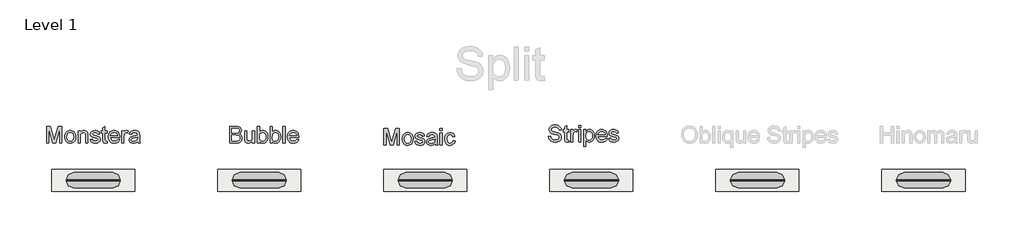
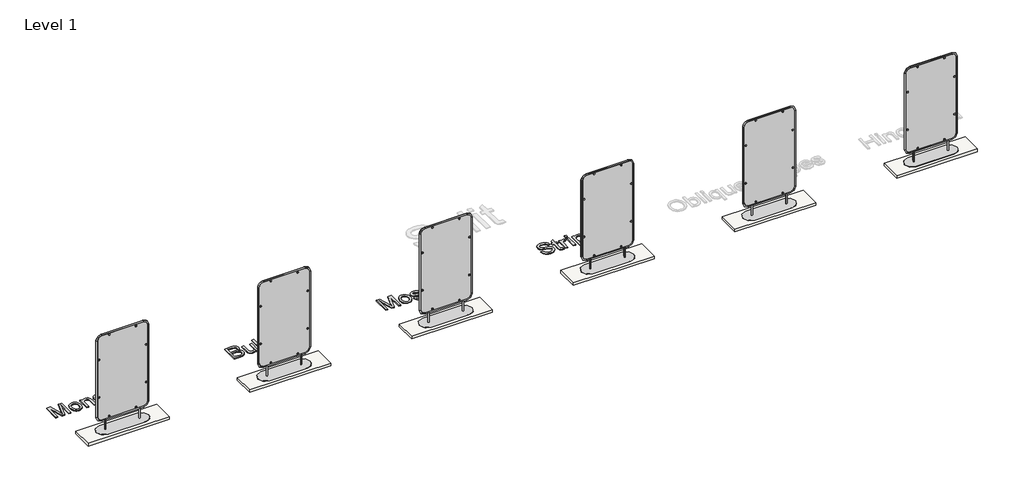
# One storey, part 1 of 2: 6 furniture elements, 6 slabs, 4 proxies.
"""IFC4 building model written with IfcOpenShell, lengths in millimetres."""

from ifc_helpers import new_model, si_unit, frame, origin, origin_with_axes, place, context, project, spatial, polyline, outline, extrude, transform, mapped, element, save
from components import split_e62d9c19

model = new_model("IFC4")

# Units and contexts
model_context = context("Model", 3, world=origin())
ifc_project = project(units=[si_unit("LENGTHUNIT", "METRE", prefix="MILLI")], contexts=[model_context])

# Site, building, storey
site = spatial("IfcSite", under=ifc_project)
building = spatial("IfcBuilding", under=site)
storey = spatial("IfcBuildingStorey", under=building, Name="Level 1", Elevation=0.0)

# Proxies
placement = place(None, origin())
element("IfcBuildingElementProxy", 1, Name="200mm Arial", ObjectType="200mm Arial", at=placement, inside=storey, context=model_context, shape_type="SweptSolid", body=[
    extrude(outline(polyline([(-7395.9629457, 15070.0026476), (-7395.9629457, 15371.3715781), (-7331.1421382, 15371.3715781), (-7269.4851158, 15158.956514), (-7257.0507043, 15114.5899454), (-7243.5862233, 15162.635334), (-7182.9592705, 15371.3715781), (-7118.138463, 15371.3715781), (-7118.138463, 15070.0026476), (-7155.8095793, 15070.0026476), (-7155.8095793, 15333.7004617), (-7231.5196939, 15070.0026476), (-7282.5817148, 15070.0026476), (-7358.2918294, 15333.7004617), (-7358.2918294, 15070.0026476), (-7395.9629457, 15070.0026476)])), origin_with_axes(), (0.0, 0.0, 1.0), 15.0),
    extrude(outline(polyline([(-7066.340678, 15180.6615518), (-7064.3035315, 15209.3241577), (-7058.1920918, 15234.0228352), (-7048.0063591, 15254.7575841), (-7033.7463333, 15271.5284046), (-7019.3897384, 15282.2475662), (-7003.5432215, 15289.9041102), (-6986.2067824, 15294.4980366), (-6967.3804213, 15296.0293454), (-6946.5973879, 15294.1646436), (-6927.8055157, 15288.570538), (-6911.0048048, 15279.2470287), (-6896.1952553, 15266.1941156), (-6884.1080325, 15249.8532573), (-6875.4743019, 15230.665912), (-6870.2940636, 15208.6320797), (-6868.5673174, 15183.7517605), (-6871.620738, 15145.6943681), (-6880.7809997, 15116.723661), (-6895.781388, 15095.0278203), (-6916.3551886, 15078.7950273), (-6940.7917501, 15068.6690754), (-6967.3804213, 15065.2937581), (-6988.4669575, 15067.1515621), (-7007.4335736, 15072.7249744), (-7024.2802697, 15082.0139947), (-7039.0070458, 15095.0186233), (-7050.9655099, 15111.5181308), (-7059.50727, 15131.291788), (-7064.632326, 15154.339595), (-7066.340678, 15180.6615518)]), holes=[polyline([(-7028.6695617, 15180.7351282), (-7024.3101601, 15146.6416643), (-7011.2319552, 15122.3522555), (-6991.5502684, 15107.8117197), (-6967.3804213, 15102.9648744), (-6943.3209389, 15107.8393108), (-6923.6760403, 15122.4626201), (-6910.5978354, 15147.0739256), (-6906.2384337, 15181.9123505), (-6910.6254265, 15215.0125331), (-6923.7864049, 15238.970848), (-6943.4588946, 15253.5113839), (-6967.3804213, 15258.3582291), (-6991.5502684, 15253.529778), (-7011.2319552, 15239.0444244), (-7024.3101601, 15214.810198), (-7028.6695617, 15180.7351282)])]), origin_with_axes(), (0.0, 0.0, 1.0), 15.0),
    extrude(outline(polyline([(-6826.1873116, 15070.0026476), (-6826.1873116, 15291.3204559), (-6788.5161953, 15291.3204559), (-6788.5161953, 15260.4183683), (-6775.4287933, 15275.9981708), (-6759.7110351, 15287.1266012), (-6741.3629206, 15293.8036594), (-6720.3844498, 15296.0293454), (-6701.8156061, 15294.2359207), (-6684.8102608, 15288.8556465), (-6670.6284099, 15280.5599075), (-6660.5300492, 15270.0200884), (-6649.2360719, 15242.3185741), (-6647.2495091, 15205.8982566), (-6647.2495091, 15070.0026476), (-6684.9206254, 15070.0026476), (-6684.9206254, 15200.8214851), (-6689.261633, 15234.1515939), (-6695.2673066, 15244.0752107), (-6704.6023122, 15251.7731414), (-6716.5676741, 15256.7119572), (-6730.4644164, 15258.3582291), (-6752.5281391, 15254.6610151), (-6771.3361061, 15243.5693729), (-6778.8523951, 15234.5148773), (-6784.221173, 15222.1402467), (-6788.5161953, 15187.4305805), (-6788.5161953, 15070.0026476), (-6826.1873116, 15070.0026476)])), origin_with_axes(), (0.0, 0.0, 1.0), 15.0),
    extrude(outline(polyline([(-6609.5783928, 15135.9271011), (-6571.9072765, 15140.6359907), (-6565.9659823, 15124.5227593), (-6554.46967, 15112.676959), (-6537.3447631, 15105.3928955), (-6514.5176853, 15102.9648744), (-6491.966519, 15105.1905604), (-6476.110805, 15111.8676187), (-6466.7298141, 15121.5429151), (-6463.6028171, 15132.763316), (-6466.7482082, 15142.3650361), (-6476.1843814, 15149.6858878), (-6514.9591437, 15160.428042), (-6571.6865473, 15178.85893), (-6586.0431422, 15188.1203592), (-6596.4450056, 15200.3800267), (-6602.7633789, 15214.8561832), (-6604.8695033, 15230.7670795), (-6603.1772461, 15245.3627977), (-6598.1004746, 15258.8364757), (-6590.0990412, 15270.6546848), (-6579.6327984, 15280.283996), (-6555.6836805, 15291.4308205), (-6523.2732768, 15296.0293454), (-6498.7539418, 15294.1807384), (-6477.4351802, 15288.6349173), (-6460.2918792, 15279.9345082), (-6448.2989261, 15268.6221368), (-6440.352675, 15253.8608717), (-6435.3494799, 15234.8137814), (-6473.0205962, 15230.1048919), (-6477.775471, 15241.9598892), (-6487.184053, 15250.8902246), (-6501.3383128, 15256.491228), (-6520.3302208, 15258.3582291), (-6541.9616821, 15256.5740015), (-6556.3826563, 15251.2213184), (-6564.4944543, 15243.4957965), (-6567.198387, 15234.5930522), (-6562.7102266, 15223.6301688), (-6548.6571344, 15215.3160357), (-6516.2099425, 15207.2962082), (-6460.9172786, 15189.564296), (-6446.3123634, 15181.0846161), (-6435.2391153, 15169.4779391), (-6428.2585545, 15154.707477), (-6425.9317008, 15136.7364415), (-6428.6632247, 15118.1584008), (-6436.8577961, 15100.684006), (-6450.2027155, 15085.6836177), (-6468.3852831, 15074.5275961), (-6490.3478382, 15067.6022176), (-6515.0327201, 15065.2937581), (-6553.0165361, 15069.7451302), (-6580.7364444, 15083.0992466), (-6599.2409088, 15105.2089545), (-6609.5783928, 15135.9271011)])), origin_with_axes(), (0.0, 0.0, 1.0), 15.0),
    extrude(outline(polyline([(-6303.5005728, 15101.41977), (-6298.7916833, 15068.8990016), (-6326.9714441, 15065.2937581), (-6345.0528442, 15066.8572565), (-6358.5357193, 15071.547752), (-6368.063863, 15078.7766332), (-6374.2810687, 15087.955289), (-6377.7023713, 15103.7190325), (-6378.8428055, 15130.7031768), (-6378.8428055, 15253.6493396), (-6407.0961427, 15253.6493396), (-6407.0961427, 15291.3204559), (-6378.8428055, 15291.3204559), (-6378.8428055, 15345.1048036), (-6341.1716891, 15367.2512997), (-6341.1716891, 15291.3204559), (-6303.5005728, 15291.3204559), (-6303.5005728, 15253.6493396), (-6341.1716891, 15253.6493396), (-6341.1716891, 15131.8068228), (-6339.1851264, 15112.3826535), (-6332.7471915, 15105.5032601), (-6319.9081098, 15102.9648744), (-6303.5005728, 15101.41977)])), origin_with_axes(), (0.0, 0.0, 1.0), 15.0),
    extrude(outline(polyline([(-6110.8775602, 15135.9271011), (-6073.9422079, 15131.2182116), (-6087.250339, 15103.3879387), (-6108.4863272, 15082.5842118), (-6137.1719258, 15069.6163715), (-6172.8288882, 15065.2937581), (-6196.2031904, 15067.1584599), (-6217.0299099, 15072.7525655), (-6235.3090465, 15082.0760748), (-6251.0406003, 15095.1289879), (-6263.6911424, 15111.5480212), (-6272.7272439, 15130.9698913), (-6278.1489049, 15153.3945981), (-6279.9561252, 15178.8221418), (-6278.1305108, 15205.1119089), (-6272.6536675, 15228.283876), (-6263.5255955, 15248.3380433), (-6250.7462947, 15265.2744106), (-6235.0561276, 15278.7296946), (-6217.1954568, 15288.3406117), (-6197.1642821, 15294.107162), (-6174.9626037, 15296.0293454), (-6153.4759959, 15294.1117605), (-6134.0449288, 15288.3590058), (-6116.6694023, 15278.7710813), (-6101.3494165, 15265.347987), (-6088.8437279, 15248.4484079), (-6079.9110932, 15228.4310288), (-6074.5515124, 15205.2958499), (-6072.7649855, 15179.042871), (-6072.9857147, 15168.8893279), (-6242.2850088, 15168.8893279), (-6235.7643005, 15140.691173), (-6220.6167593, 15119.9610226), (-6198.7553718, 15107.2139114), (-6172.0931242, 15102.9648744), (-6152.0435554, 15104.933043), (-6135.1577719, 15110.8375491), (-6121.4357734, 15121.0462744), (-6110.8775602, 15135.9271011)]), holes=[polyline([(-6242.2850088, 15206.5604442), (-6110.4361018, 15206.5604442), (-6115.5312674, 15226.4628602), (-6125.5192636, 15240.6998934), (-6147.4818187, 15253.9436452), (-6175.1097565, 15258.3582291), (-6200.5028112, 15254.835759), (-6221.4996761, 15244.2683487), (-6236.0953943, 15227.7964324), (-6242.2850088, 15206.5604442)])]), origin_with_axes(), (0.0, 0.0, 1.0), 15.0),
    extrude(outline(polyline([(-6035.0938692, 15070.0026476), (-6035.0938692, 15291.3204559), (-6002.1316424, 15291.3204559), (-6002.1316424, 15258.5789583), (-5989.9547484, 15277.5616693), (-5978.7343475, 15288.7452819), (-5967.4771584, 15294.2083296), (-5955.1898998, 15296.0293454), (-5936.4279181, 15293.1230777), (-5917.3716307, 15284.4042744), (-5929.9531949, 15250.6327072), (-5943.1969468, 15256.4268487), (-5956.4406986, 15258.3582291), (-5967.6886906, 15256.5004251), (-5977.7410661, 15250.9270128), (-5985.8620612, 15242.0610568), (-5991.3159117, 15230.3256211), (-5995.8960426, 15209.282771), (-5997.4227529, 15186.3269345), (-5997.4227529, 15070.0026476), (-6035.0938692, 15070.0026476)])), origin_with_axes(), (0.0, 0.0, 1.0), 15.0),
    extrude(outline(polyline([(-5752.5604969, 15098.2559848), (-5770.5591235, 15082.8233351), (-5789.091179, 15072.7249744), (-5808.5797277, 15067.1515621), (-5829.4478339, 15065.2937581), (-5860.9293356, 15069.7635243), (-5884.1518865, 15083.172823), (-5898.4716932, 15103.5350915), (-5903.2449621, 15128.8637668), (-5901.4423403, 15144.4803575), (-5896.034475, 15158.6622084), (-5887.6927507, 15170.8023143), (-5877.0885522, 15180.2936698), (-5850.7114132, 15192.6545048), (-5818.1170684, 15198.3198875), (-5779.5998235, 15204.2795758), (-5752.7812261, 15211.2693338), (-5752.5604969, 15219.6570432), (-5755.1540649, 15236.4692504), (-5762.9347691, 15247.4689221), (-5780.3355875, 15255.6359024), (-5804.579011, 15258.3582291), (-5827.0198127, 15256.5464103), (-5842.6915857, 15251.1109538), (-5853.3785576, 15241.0585783), (-5860.8649562, 15225.3960024), (-5898.5360726, 15230.1048919), (-5891.9969701, 15250.7062836), (-5882.2389002, 15266.8930914), (-5868.3513548, 15279.2723206), (-5849.4238262, 15288.4509763), (-5826.2748517, 15294.1347532), (-5799.7229686, 15296.0293454), (-5774.2563375, 15294.3554824), (-5754.068813, 15289.3338931), (-5738.8476955, 15281.7831152), (-5728.2802852, 15272.521686), (-5721.2721332, 15261.0713589), (-5716.7287905, 15246.9538873), (-5714.8893806, 15213.9916605), (-5714.8893806, 15167.1234943), (-5712.9763942, 15101.6772874), (-5705.4716015, 15070.0026476), (-5743.1427178, 15070.0026476), (-5752.5604969, 15098.2559848)]), holes=[polyline([(-5752.5604969, 15173.5982174), (-5813.3346025, 15162.0467228), (-5845.7450062, 15155.9398817), (-5860.4234979, 15146.0070678), (-5865.5738458, 15131.5125172), (-5862.7687456, 15120.3105104), (-5854.3534449, 15111.1318547), (-5840.5118849, 15105.0066194), (-5821.4280064, 15102.9648744), (-5801.1944966, 15105.2181516), (-5783.3154317, 15111.9779833), (-5768.8208811, 15121.9383883), (-5758.7409144, 15133.7933856), (-5754.2711481, 15146.0070678), (-5752.7812261, 15162.9296396), (-5752.5604969, 15173.5982174)])]), origin_with_axes(), (0.0, 0.0, 1.0), 15.0),
])
element("IfcBuildingElementProxy", 2, Name="200mm Arial", ObjectType="200mm Arial", at=placement, inside=storey, context=model_context, shape_type="SweptSolid", body=[
    extrude(outline(polyline([(-4089.5515645, 15070.0026476), (-4089.5515645, 15371.3715781), (-3974.5516528, 15371.3715781), (-3942.9229982, 15369.155089), (-3918.2289193, 15362.505622), (-3899.3013907, 15351.25763), (-3884.972387, 15335.2455661), (-3875.950081, 15316.410008), (-3872.9426457, 15296.691533), (-3875.4718344, 15278.5457536), (-3883.0594006, 15261.4852261), (-3895.7605265, 15246.5584141), (-3913.6303944, 15234.8137814), (-3892.2840416, 15223.666957), (-3876.5111011, 15206.707597), (-3866.7714252, 15185.0577416), (-3863.5248666, 15159.8394308), (-3865.7413557, 15138.8241719), (-3872.3908227, 15119.3356232), (-3882.3144395, 15102.7625393), (-3894.3533778, 15090.4936747), (-3909.0962488, 15081.6093246), (-3927.1316636, 15075.1897837), (-3975.4345696, 15070.0026476), (-4089.5515645, 15070.0026476)]), holes=[polyline([(-4051.8804482, 15248.9404501), (-3983.0865151, 15248.9404501), (-3942.9138012, 15252.1778116), (-3928.8515119, 15257.7604209), (-3918.7439541, 15266.1205392), (-3912.64631, 15277.1294079), (-3910.613762, 15290.6582683), (-3912.5083543, 15303.7916555), (-3918.1921311, 15315.2327856), (-3927.4075751, 15324.163121), (-3939.8971688, 15329.7641244), (-3988.3104394, 15333.7004617), (-4051.8804482, 15333.7004617), (-4051.8804482, 15248.9404501)]), polyline([(-4051.8804482, 15107.6737639), (-3974.6252292, 15107.6737639), (-3946.6661975, 15109.1452919), (-3923.0113853, 15117.3490604), (-3907.3396123, 15134.0876912), (-3902.7318903, 15145.9150973), (-3901.1959829, 15159.4715488), (-3902.9986047, 15175.2168982), (-3908.40647, 15188.7549556), (-3917.8518403, 15199.3407601), (-3931.7669767, 15206.2293504), (-3951.4762546, 15210.0093379), (-3978.3040491, 15211.2693338), (-4051.8804482, 15211.2693338), (-4051.8804482, 15107.6737639)])]), origin_with_axes(), (0.0, 0.0, 1.0), 15.0),
    extrude(outline(polyline([(-3675.1692851, 15070.0026476), (-3675.1692851, 15108.0416459), (-3688.799313, 15089.339445), (-3704.6734211, 15075.98073), (-3722.7916094, 15067.9655011), (-3743.1538778, 15065.2937581), (-3761.5019923, 15067.1699562), (-3778.580914, 15072.7985508), (-3792.9099177, 15081.2598367), (-3803.0082784, 15091.6341089), (-3814.2286793, 15119.3724114), (-3816.4359713, 15154.3947773), (-3816.4359713, 15291.3204559), (-3778.7648549, 15291.3204559), (-3778.7648549, 15172.1266895), (-3776.4839866, 15133.7198092), (-3770.9933478, 15120.9083187), (-3761.5847658, 15111.1686429), (-3748.8836399, 15105.0158165), (-3733.5153695, 15102.9648744), (-3717.2641824, 15105.0618017), (-3702.061459, 15111.3525839), (-3689.52588, 15121.2578066), (-3681.2761262, 15134.1980558), (-3676.6959954, 15151.9207709), (-3675.1692851, 15176.1733914), (-3675.1692851, 15291.3204559), (-3637.4981688, 15291.3204559), (-3637.4981688, 15070.0026476), (-3675.1692851, 15070.0026476)])), origin_with_axes(), (0.0, 0.0, 1.0), 15.0),
    extrude(outline(polyline([(-3548.0292676, 15070.0026476), (-3585.7003839, 15070.0026476), (-3585.7003839, 15371.3715781), (-3548.0292676, 15371.3715781), (-3548.0292676, 15259.6090279), (-3535.6408414, 15275.5429168), (-3521.6521285, 15286.9242661), (-3506.063129, 15293.7530756), (-3488.8738427, 15296.0293454), (-3469.4680675, 15293.9784033), (-3451.12915, 15287.825577), (-3434.9055541, 15277.9571424), (-3421.8457432, 15264.7593759), (-3411.6094267, 15248.3610359), (-3403.8563137, 15228.8908813), (-3398.9726802, 15207.1582525), (-3397.3448023, 15183.9724897), (-3399.0301617, 15157.2182716), (-3404.0862399, 15133.683021), (-3412.5130369, 15113.3667378), (-3424.3105526, 15096.2694221), (-3438.4717101, 15082.7175691), (-3453.9894326, 15073.0376741), (-3470.8637198, 15067.2297371), (-3489.0945719, 15065.2937581), (-3506.8494767, 15067.7907571), (-3522.5902276, 15075.2817542), (-3536.3168246, 15087.7667494), (-3548.0292676, 15105.2457427), (-3548.0292676, 15070.0026476)]), holes=[polyline([(-3548.0292676, 15182.2066561), (-3545.4540936, 15150.7895337), (-3537.7285717, 15129.5259544), (-3528.6004997, 15117.9054819), (-3517.9917027, 15109.6051444), (-3505.9021806, 15104.6249419), (-3492.3319335, 15102.9648744), (-3470.5901076, 15107.8577049), (-3452.0120668, 15122.5361965), (-3439.2649557, 15146.9083787), (-3435.0159187, 15180.882281), (-3439.0902118, 15215.3528239), (-3451.313091, 15239.4490946), (-3469.3117177, 15253.6309455), (-3490.7132527, 15258.3582291), (-3512.4550786, 15253.4653986), (-3531.0331194, 15238.786907), (-3543.7802305, 15214.8561832), (-3548.0292676, 15182.2066561)])]), origin_with_axes(), (0.0, 0.0, 1.0), 15.0),
    extrude(outline(polyline([(-3317.2936802, 15070.0026476), (-3354.9647965, 15070.0026476), (-3354.9647965, 15371.3715781), (-3317.2936802, 15371.3715781), (-3317.2936802, 15259.6090279), (-3304.905254, 15275.5429168), (-3290.9165411, 15286.9242661), (-3275.3275416, 15293.7530756), (-3258.1382554, 15296.0293454), (-3238.7324801, 15293.9784033), (-3220.3935627, 15287.825577), (-3204.1699667, 15277.9571424), (-3191.1101559, 15264.7593759), (-3180.8738393, 15248.3610359), (-3173.1207263, 15228.8908813), (-3168.2370928, 15207.1582525), (-3166.609215, 15183.9724897), (-3168.2945744, 15157.2182716), (-3173.3506525, 15133.683021), (-3181.7774495, 15113.3667378), (-3193.5749652, 15096.2694221), (-3207.7361228, 15082.7175691), (-3223.2538452, 15073.0376741), (-3240.1281324, 15067.2297371), (-3258.3589846, 15065.2937581), (-3276.1138894, 15067.7907571), (-3291.8546402, 15075.2817542), (-3305.5812372, 15087.7667494), (-3317.2936802, 15105.2457427), (-3317.2936802, 15070.0026476)]), holes=[polyline([(-3317.2936802, 15182.2066561), (-3314.7185062, 15150.7895337), (-3306.9929843, 15129.5259544), (-3297.8649123, 15117.9054819), (-3287.2561153, 15109.6051444), (-3275.1665932, 15104.6249419), (-3261.5963461, 15102.9648744), (-3239.8545202, 15107.8577049), (-3221.2764795, 15122.5361965), (-3208.5293683, 15146.9083787), (-3204.2803313, 15180.882281), (-3208.3546244, 15215.3528239), (-3220.5775037, 15239.4490946), (-3238.5761303, 15253.6309455), (-3259.9776653, 15258.3582291), (-3281.7194913, 15253.4653986), (-3300.297532, 15238.786907), (-3313.0446432, 15214.8561832), (-3317.2936802, 15182.2066561)])]), origin_with_axes(), (0.0, 0.0, 1.0), 15.0),
    extrude(outline(polyline([(-3124.2292091, 15070.0026476), (-3124.2292091, 15371.3715781), (-3086.5580928, 15371.3715781), (-3086.5580928, 15070.0026476), (-3124.2292091, 15070.0026476)])), origin_with_axes(), (0.0, 0.0, 1.0), 15.0),
    extrude(outline(polyline([(-2875.099522, 15135.9271011), (-2838.1641697, 15131.2182116), (-2851.4723009, 15103.3879387), (-2872.708289, 15082.5842118), (-2901.3938876, 15069.6163715), (-2937.05085, 15065.2937581), (-2960.4251523, 15067.1584599), (-2981.2518717, 15072.7525655), (-2999.5310083, 15082.0760748), (-3015.2625622, 15095.1289879), (-3027.9131043, 15111.5480212), (-3036.9492058, 15130.9698913), (-3042.3708667, 15153.3945981), (-3044.178087, 15178.8221418), (-3042.3524726, 15205.1119089), (-3036.8756294, 15228.283876), (-3027.7475574, 15248.3380433), (-3014.9682566, 15265.2744106), (-2999.2780895, 15278.7296946), (-2981.4174186, 15288.3406117), (-2961.386244, 15294.107162), (-2939.1845656, 15296.0293454), (-2917.6979578, 15294.1117605), (-2898.2668906, 15288.3590058), (-2880.8913642, 15278.7710813), (-2865.5713783, 15265.347987), (-2853.0656897, 15248.4484079), (-2844.1330551, 15228.4310288), (-2838.7734742, 15205.2958499), (-2836.9869473, 15179.042871), (-2837.2076765, 15168.8893279), (-3006.5069707, 15168.8893279), (-2999.9862623, 15140.691173), (-2984.8387212, 15119.9610226), (-2962.9773336, 15107.2139114), (-2936.315086, 15102.9648744), (-2916.2655173, 15104.933043), (-2899.3797337, 15110.8375491), (-2885.6577353, 15121.0462744), (-2875.099522, 15135.9271011)]), holes=[polyline([(-3006.5069707, 15206.5604442), (-2874.6580636, 15206.5604442), (-2879.7532292, 15226.4628602), (-2889.7412254, 15240.6998934), (-2911.7037805, 15253.9436452), (-2939.3317184, 15258.3582291), (-2964.7247731, 15254.835759), (-2985.7216379, 15244.2683487), (-3000.3173561, 15227.7964324), (-3006.5069707, 15206.5604442)])]), origin_with_axes(), (0.0, 0.0, 1.0), 15.0),
])
element("IfcBuildingElementProxy", 3, Name="200mm Arial", ObjectType="200mm Arial", at=placement, inside=storey, context=model_context, shape_type="SweptSolid", body=[
    extrude(outline(polyline([(1671.9035596, 15192.5248746), (1709.5746759, 15192.5248746), (1713.8972894, 15171.6199803), (1721.7147818, 15154.8169701), (1733.9100699, 15141.4812478), (1751.3660706, 15130.9782168), (1772.7032263, 15124.1632029), (1796.5419796, 15121.8915316), (1817.5296474, 15123.6113799), (1835.9053531, 15128.7709249), (1850.7953768, 15136.9379052), (1861.3259989, 15147.6800594), (1867.5891899, 15160.0133033), (1869.6769202, 15172.9535525), (1868.1134217, 15185.5627079), (1863.4229263, 15196.461212), (1853.8947826, 15205.7594294), (1837.8183394, 15213.5677248), (1782.967134, 15227.9519108), (1746.9606837, 15237.4708574), (1723.9220737, 15246.5299515), (1705.169289, 15259.2034863), (1691.879552, 15274.5625596), (1683.960892, 15292.2760776), (1681.3213387, 15312.0129467), (1684.5862914, 15334.0766693), (1694.3811495, 15354.6504699), (1710.4483957, 15372.0880765), (1732.5305124, 15384.7432171), (1759.0364102, 15392.4411479), (1788.3749993, 15395.0071248), (1820.1600037, 15392.3215862), (1847.9718825, 15384.2649705), (1870.8173544, 15371.0028246), (1887.703138, 15352.7006953), (1898.39011, 15330.4990169), (1902.639147, 15305.5382236), (1864.9680307, 15305.5382236), (1858.0518492, 15328.0158135), (1843.630875, 15344.2394094), (1821.0981028, 15354.0618587), (1789.8465273, 15357.3360085), (1757.8591878, 15354.0986469), (1735.9150268, 15344.3865622), (1723.2230979, 15330.0943467), (1718.992455, 15313.1165927), (1721.9906933, 15298.6404361), (1730.985408, 15286.996971), (1752.2489874, 15276.5859105), (1792.4952776, 15265.9541209), (1834.0291549, 15255.8557601), (1859.1554952, 15247.0449863), (1880.6306066, 15233.3781702), (1895.6126009, 15216.5107807), (1904.4141776, 15196.6267589), (1907.3480365, 15173.9100457), (1903.9727192, 15150.6874947), (1893.8467673, 15128.8445013), (1877.384048, 15110.0457313), (1854.9984286, 15095.9558509), (1828.0786636, 15087.1542742), (1798.0135076, 15084.2204153), (1761.1057464, 15087.3842004), (1730.7278907, 15096.8755559), (1706.5304524, 15112.7312699), (1688.1639438, 15134.9881306), (1676.3733259, 15162.1010336), (1671.9035596, 15192.5248746)])), origin_with_axes(), (0.0, 0.0, 1.0), 15.0),
    extrude(outline(polyline([(2039.1969436, 15120.3464272), (2043.9058331, 15087.8256588), (2015.7260723, 15084.2204153), (1997.6446723, 15085.7839137), (1984.1617971, 15090.4744092), (1974.6336535, 15097.7032904), (1968.4164477, 15106.8819462), (1964.9951452, 15122.6456897), (1963.854711, 15149.629834), (1963.854711, 15272.5759968), (1935.6013738, 15272.5759968), (1935.6013738, 15310.2471131), (1963.854711, 15310.2471131), (1963.854711, 15364.0314608), (2001.5258273, 15386.1779569), (2001.5258273, 15310.2471131), (2039.1969436, 15310.2471131), (2039.1969436, 15272.5759968), (2001.5258273, 15272.5759968), (2001.5258273, 15150.73348), (2003.5123901, 15131.3093106), (2009.950325, 15124.4299173), (2022.7894066, 15121.8915316), (2039.1969436, 15120.3464272)])), origin_with_axes(), (0.0, 0.0, 1.0), 15.0),
    extrude(outline(polyline([(2076.8680599, 15088.9293048), (2076.8680599, 15310.2471131), (2109.8302867, 15310.2471131), (2109.8302867, 15277.5056155), (2122.0071807, 15296.4883265), (2133.2275816, 15307.6719391), (2144.4847706, 15313.1349868), (2156.7720293, 15314.9560026), (2175.534011, 15312.0497349), (2194.5902984, 15303.3309316), (2182.0087341, 15269.5593644), (2168.7649823, 15275.3535058), (2155.5212305, 15277.2848863), (2144.2732385, 15275.4270822), (2134.220863, 15269.85367), (2126.0998679, 15260.9877139), (2120.6460173, 15249.2522783), (2116.0658865, 15228.2094282), (2114.5391762, 15205.2535917), (2114.5391762, 15088.9293048), (2076.8680599, 15088.9293048)])), origin_with_axes(), (0.0, 0.0, 1.0), 15.0),
    extrude(outline(polyline([(2218.1347461, 15352.6271189), (2218.1347461, 15390.2982352), (2255.8058624, 15390.2982352), (2255.8058624, 15352.6271189), (2218.1347461, 15352.6271189)])), origin_with_axes(), (0.0, 0.0, 1.0), 15.0),
    extrude(outline(polyline([(2218.1347461, 15088.9293048), (2218.1347461, 15310.2471131), (2255.8058624, 15310.2471131), (2255.8058624, 15088.9293048), (2218.1347461, 15088.9293048)])), origin_with_axes(), (0.0, 0.0, 1.0), 15.0),
    extrude(outline(polyline([(2312.3125368, 15004.1692931), (2312.3125368, 15310.2471131), (2349.9836531, 15310.2471131), (2349.9836531, 15273.3117608), (2362.2709118, 15291.5311166), (2376.0296984, 15304.5449422), (2392.0693534, 15312.3532375), (2411.1992171, 15314.9560026), (2436.6750453, 15311.3139709), (2458.9503001, 15300.3878756), (2477.0868825, 15282.8399045), (2490.1466933, 15259.332245), (2498.0377621, 15231.5755484), (2500.6681184, 15201.2804661), (2497.6974712, 15169.0632004), (2488.7855299, 15140.2488431), (2474.2174029, 15116.2997252), (2454.2781988, 15098.6781777), (2431.0556478, 15087.8348559), (2406.6374804, 15084.2204153), (2389.3194355, 15086.6392394), (2373.8591946, 15093.8957117), (2360.6246398, 15104.8493981), (2349.9836531, 15118.3598644), (2349.9836531, 15004.1692931), (2312.3125368, 15004.1692931)]), holes=[polyline([(2349.9836531, 15197.8223754), (2354.0579462, 15164.0508082), (2366.2808255, 15140.4327841), (2384.3162403, 15126.5268447), (2405.82814, 15121.8915316), (2427.6895276, 15126.6923916), (2446.1847949, 15141.0949717), (2458.7939503, 15165.5775185), (2462.9970021, 15200.6182785), (2458.8951178, 15234.2059047), (2446.5894651, 15258.1550226), (2428.5816414, 15272.5024204), (2407.3732444, 15277.2848863), (2386.0820739, 15272.1989177), (2367.3844715, 15256.941012), (2354.3338577, 15231.9894157), (2349.9836531, 15197.8223754)])]), origin_with_axes(), (0.0, 0.0, 1.0), 15.0),
    extrude(outline(polyline([(2698.0000206, 15154.8537583), (2734.9353729, 15150.1448688), (2721.6272417, 15122.3145959), (2700.3912535, 15101.510869), (2671.705655, 15088.5430287), (2636.0486926, 15084.2204153), (2612.6743903, 15086.0851171), (2591.8476709, 15091.6792227), (2573.5685342, 15101.002732), (2557.8369804, 15114.0556451), (2545.1864383, 15130.4746784), (2536.1503368, 15149.8965484), (2530.7286759, 15172.3212553), (2528.9214556, 15197.748799), (2530.74707, 15224.038566), (2536.2239132, 15247.2105332), (2545.3519852, 15267.2647005), (2558.131286, 15284.2010678), (2573.8214531, 15297.6563518), (2591.682124, 15307.2672689), (2611.7132986, 15313.0338192), (2633.914977, 15314.9560026), (2655.4015848, 15313.0384177), (2674.8326519, 15307.285663), (2692.2081784, 15297.6977385), (2707.5281642, 15284.2746442), (2720.0338528, 15267.3750651), (2728.9664875, 15247.357686), (2734.3260683, 15224.222507), (2736.1125953, 15197.9695282), (2735.8918661, 15187.8159851), (2566.5925719, 15187.8159851), (2573.1132803, 15159.6178302), (2588.2608214, 15138.8876797), (2610.122209, 15126.1405686), (2636.7844566, 15121.8915316), (2656.8340253, 15123.8597002), (2673.7198089, 15129.7642063), (2687.4418073, 15139.9729316), (2698.0000206, 15154.8537583)]), holes=[polyline([(2566.5925719, 15225.4871014), (2698.441479, 15225.4871014), (2693.3463133, 15245.3895173), (2683.3583172, 15259.6265506), (2661.395762, 15272.8703024), (2633.7678242, 15277.2848863), (2608.3747695, 15273.7624162), (2587.3779046, 15263.1950059), (2572.7821865, 15246.7230896), (2566.5925719, 15225.4871014)])]), origin_with_axes(), (0.0, 0.0, 1.0), 15.0),
    extrude(outline(polyline([(2759.657043, 15154.8537583), (2797.3281593, 15159.5626479), (2803.2694535, 15143.4494165), (2814.7657658, 15131.6036162), (2831.8906727, 15124.3195527), (2854.7177505, 15121.8915316), (2877.2689168, 15124.1172176), (2893.1246308, 15130.7942758), (2902.5056217, 15140.4695723), (2905.6326186, 15151.6899732), (2902.4872276, 15161.2916932), (2893.0510544, 15168.6125449), (2854.2762921, 15179.3546992), (2797.5488885, 15197.7855872), (2783.1922936, 15207.0470164), (2772.7904302, 15219.3066839), (2766.4720569, 15233.7828404), (2764.3659325, 15249.6937367), (2766.0581897, 15264.2894548), (2771.1349612, 15277.7631329), (2779.1363946, 15289.581342), (2789.6026374, 15299.2106532), (2813.5517553, 15310.3574777), (2845.962159, 15314.9560026), (2870.481494, 15313.1073956), (2891.8002556, 15307.5615745), (2908.9435566, 15298.8611653), (2920.9365096, 15287.548794), (2928.8827607, 15272.7875289), (2933.8859559, 15253.7404386), (2896.2148396, 15249.0315491), (2891.4599648, 15260.8865464), (2882.0513828, 15269.8168818), (2867.897123, 15275.4178852), (2848.905215, 15277.2848863), (2827.2737537, 15275.5006586), (2812.8527795, 15270.1479756), (2804.7409815, 15262.4224537), (2802.0370488, 15253.5197094), (2806.5252091, 15242.556826), (2820.5783014, 15234.2426929), (2853.0254933, 15226.2228654), (2908.3181572, 15208.4909532), (2922.9230724, 15200.0112732), (2933.9963205, 15188.4045963), (2940.9768813, 15173.6341342), (2943.303735, 15155.6630987), (2940.5722111, 15137.085058), (2932.3776397, 15119.6106632), (2919.0327203, 15104.6102748), (2900.8501527, 15093.4542533), (2878.8875976, 15086.5288748), (2854.2027157, 15084.2204153), (2816.2188997, 15088.6717874), (2788.4989914, 15102.0259038), (2769.994527, 15124.1356117), (2759.657043, 15154.8537583)])), origin_with_axes(), (0.0, 0.0, 1.0), 15.0),
])
element("IfcBuildingElementProxy", 4, Name="200mm Arial", ObjectType="200mm Arial", at=placement, inside=storey, context=model_context, shape_type="SweptSolid", body=[
    extrude(outline(polyline([(-1300.1601566, 15032.1493332), (-1300.1601566, 15333.5182637), (-1235.339349, 15333.5182637), (-1173.6823266, 15121.1031997), (-1161.2479152, 15076.7366311), (-1147.7834342, 15124.7820196), (-1087.1564814, 15333.5182637), (-1022.3356738, 15333.5182637), (-1022.3356738, 15032.1493332), (-1060.0067901, 15032.1493332), (-1060.0067901, 15295.8471474), (-1135.7169047, 15032.1493332), (-1186.7789257, 15032.1493332), (-1262.4890403, 15295.8471474), (-1262.4890403, 15032.1493332), (-1300.1601566, 15032.1493332)])), origin_with_axes(), (0.0, 0.0, 1.0), 15.0),
    extrude(outline(polyline([(-970.5378889, 15142.8082374), (-968.5007424, 15171.4708433), (-962.3893027, 15196.1695208), (-952.20357, 15216.9042697), (-937.9435441, 15233.6750902), (-923.5869493, 15244.3942518), (-907.7404323, 15252.0507959), (-890.4039933, 15256.6447223), (-871.5776322, 15258.1760311), (-850.7945987, 15256.3113292), (-832.0027266, 15250.7172236), (-815.2020157, 15241.3937143), (-800.3924661, 15228.3408013), (-788.3052433, 15211.9999429), (-779.6715128, 15192.8125976), (-774.4912744, 15170.7787653), (-772.7645283, 15145.8984461), (-775.8179489, 15107.8410537), (-784.9782105, 15078.8703466), (-799.9785989, 15057.174506), (-820.5523995, 15040.9417129), (-844.988961, 15030.815761), (-871.5776322, 15027.4404437), (-892.6641683, 15029.2982478), (-911.6307844, 15034.87166), (-928.4774805, 15044.1606804), (-943.2042567, 15057.1653089), (-955.1627208, 15073.6648164), (-963.7044808, 15093.4384736), (-968.8295369, 15116.4862806), (-970.5378889, 15142.8082374)]), holes=[polyline([(-932.8667726, 15142.8818138), (-928.507371, 15108.7883499), (-915.429166, 15084.4989411), (-895.7474793, 15069.9584053), (-871.5776322, 15065.11156), (-847.5181497, 15069.9859964), (-827.8732512, 15084.6093057), (-814.7950462, 15109.2206112), (-810.4356446, 15144.0590362), (-814.8226374, 15177.1592187), (-827.9836158, 15201.1175336), (-847.6561055, 15215.6580695), (-871.5776322, 15220.5049148), (-895.7474793, 15215.6764636), (-915.429166, 15201.19111), (-928.507371, 15176.9568836), (-932.8667726, 15142.8818138)])]), origin_with_axes(), (0.0, 0.0, 1.0), 15.0),
    extrude(outline(polyline([(-744.5111911, 15098.0737868), (-706.8400748, 15102.7826763), (-700.8987805, 15086.6694449), (-689.4024682, 15074.8236447), (-672.2775613, 15067.5395812), (-649.4504835, 15065.11156), (-626.8993172, 15067.3372461), (-611.0436032, 15074.0143043), (-601.6626123, 15083.6896008), (-598.5356154, 15094.9100016), (-601.6810064, 15104.5117217), (-611.1171796, 15111.8325734), (-649.8919419, 15122.5747276), (-706.6193456, 15141.0056156), (-720.9759404, 15150.2670448), (-731.3778038, 15162.5267123), (-737.6961771, 15177.0028688), (-739.8023015, 15192.9137651), (-738.1100444, 15207.5094833), (-733.0332728, 15220.9831614), (-725.0318394, 15232.8013705), (-714.5655967, 15242.4306817), (-690.6164788, 15253.5775061), (-658.206075, 15258.1760311), (-633.68674, 15256.327424), (-612.3679784, 15250.781603), (-595.2246774, 15242.0811938), (-583.2317244, 15230.7688224), (-575.2854733, 15216.0075574), (-570.2822782, 15196.9604671), (-607.9533945, 15192.2515775), (-612.7082692, 15204.1065748), (-622.1168513, 15213.0369103), (-636.271111, 15218.6379136), (-655.263019, 15220.5049148), (-676.8944804, 15218.7206871), (-691.3154546, 15213.3680041), (-699.4272526, 15205.6424822), (-702.1311852, 15196.7397379), (-697.6430249, 15185.7768544), (-683.5899327, 15177.4627213), (-651.1427407, 15169.4428938), (-595.8500768, 15151.7109817), (-581.2451616, 15143.2313017), (-570.1719136, 15131.6246247), (-563.1913527, 15116.8541626), (-560.8644991, 15098.8831272), (-563.5960229, 15080.3050864), (-571.7905943, 15062.8306916), (-585.1355137, 15047.8303033), (-603.3180813, 15036.6742818), (-625.2806364, 15029.7489032), (-649.9655183, 15027.4404437), (-687.9493343, 15031.8918158), (-715.6692426, 15045.2459323), (-734.173707, 15067.3556402), (-744.5111911, 15098.0737868)])), origin_with_axes(), (0.0, 0.0, 1.0), 15.0),
    extrude(outline(polyline([(-377.2178071, 15060.4026705), (-395.2164337, 15044.9700208), (-413.7484892, 15034.87166), (-433.2370379, 15029.2982478), (-454.1051441, 15027.4404437), (-485.5866458, 15031.9102099), (-508.8091968, 15045.3195087), (-523.1290034, 15065.6817771), (-527.9022723, 15091.0104525), (-526.0996505, 15106.6270432), (-520.6917852, 15120.8088941), (-512.350061, 15132.9489999), (-501.7458624, 15142.4403554), (-475.3687234, 15154.8011904), (-442.7743786, 15160.4665732), (-404.2571337, 15166.4262615), (-377.4385363, 15173.4160194), (-377.2178071, 15181.8037289), (-379.8113751, 15198.6159361), (-387.5920793, 15209.6156077), (-404.9928977, 15217.782588), (-429.2363212, 15220.5049148), (-451.6771229, 15218.6930959), (-467.3488959, 15213.2576395), (-478.0358679, 15203.2052639), (-485.5222665, 15187.542688), (-523.1933828, 15192.2515775), (-516.6542803, 15212.8529693), (-506.8962104, 15229.0397771), (-493.0086651, 15241.4190062), (-474.0811364, 15250.597662), (-450.9321619, 15256.2814388), (-424.3802789, 15258.1760311), (-398.9136477, 15256.502168), (-378.7261233, 15251.4805788), (-363.5050057, 15243.9298008), (-352.9375954, 15234.6683716), (-345.9294434, 15223.2180445), (-341.3861008, 15209.1005729), (-339.5466908, 15176.1383461), (-339.5466908, 15129.27018), (-337.6337044, 15063.823973), (-330.1289117, 15032.1493332), (-367.800028, 15032.1493332), (-377.2178071, 15060.4026705)]), holes=[polyline([(-377.2178071, 15135.7449031), (-437.9919127, 15124.1934084), (-470.4023165, 15118.0865673), (-485.0808081, 15108.1537534), (-490.231156, 15093.6592028), (-487.4260558, 15082.4571961), (-479.0107551, 15073.2785403), (-465.1691951, 15067.1533051), (-446.0853166, 15065.11156), (-425.8518068, 15067.3648372), (-407.9727419, 15074.1246689), (-393.4781913, 15084.0850739), (-383.3982246, 15095.9400712), (-378.9284584, 15108.1537534), (-377.4385363, 15125.0763252), (-377.2178071, 15135.7449031)])]), origin_with_axes(), (0.0, 0.0, 1.0), 15.0),
    extrude(outline(polyline([(-287.7489059, 15295.8471474), (-287.7489059, 15333.5182637), (-250.0777895, 15333.5182637), (-250.0777895, 15295.8471474), (-287.7489059, 15295.8471474)])), origin_with_axes(), (0.0, 0.0, 1.0), 15.0),
    extrude(outline(polyline([(-287.7489059, 15032.1493332), (-287.7489059, 15253.4671415), (-250.0777895, 15253.4671415), (-250.0777895, 15032.1493332), (-287.7489059, 15032.1493332)])), origin_with_axes(), (0.0, 0.0, 1.0), 15.0),
    extrude(outline(polyline([(-52.3044289, 15112.2004554), (-14.6333126, 15107.4915658), (-25.1363436, 15073.9867131), (-44.8732126, 15048.6672348), (-71.9861157, 15032.7471415), (-104.6172487, 15027.4404437), (-125.7451715, 15029.29135), (-144.688795, 15034.8440688), (-161.4481191, 15044.0986003), (-176.0231439, 15057.0549443), (-187.8206597, 15073.4693791), (-196.2474566, 15093.0981828), (-201.3035348, 15115.9413554), (-202.9888942, 15141.998897), (-200.1102176, 15175.5221438), (-191.4741877, 15204.5756244), (-176.9428489, 15228.0372986), (-156.3782454, 15244.7851264), (-131.7761369, 15254.8283049), (-105.1322834, 15258.1760311), (-73.3012938, 15253.5775061), (-47.8530568, 15239.7819313), (-29.5969128, 15217.5250706), (-19.3422022, 15187.542688), (-57.0133185, 15182.8337985), (-63.8467265, 15199.2689266), (-74.4877133, 15211.0503475), (-88.3476674, 15218.1412729), (-104.8379779, 15220.5049148), (-129.1825689, 15215.8512075), (-148.5055707, 15201.8900858), (-161.1147261, 15177.8673915), (-165.3177779, 15143.0289666), (-161.2066966, 15107.7214921), (-148.8734527, 15083.6160244), (-129.8999388, 15069.7376761), (-105.8680474, 15065.11156), (-86.3611046, 15067.9994337), (-70.3674349, 15076.6630547), (-58.7331668, 15091.3231522), (-52.3044289, 15112.2004554)])), origin_with_axes(), (0.0, 0.0, 1.0), 15.0),
])

# Furniture
split_shape = split_e62d9c19(model_context)
element("IfcFurniture", 5, ObjectType="Acoustic-Panels_Slalom_Split_Metric : Split", at=placement, inside=storey, context=model_context, shape_type="MappedRepresentation", body=[
    mapped(split_shape, transform((-6552.392561, 14394.8224, 0.0), x_axis=(1.0, 0.0, 0.0), y_axis=(0.0, 1.0, 0.0), z_axis=(0.0, 0.0, 1.0))),
])
element("IfcFurniture", 6, ObjectType="Acoustic-Panels_Slalom_Split_Metric : Split", at=placement, inside=storey, context=model_context, shape_type="MappedRepresentation", body=[
    mapped(split_shape, transform((-3552.392561, 14394.8224, 0.0), x_axis=(1.0, 0.0, 0.0), y_axis=(0.0, 1.0, 0.0), z_axis=(0.0, 0.0, 1.0))),
])
element("IfcFurniture", 7, ObjectType="Acoustic-Panels_Slalom_Split_Metric : Split", at=placement, inside=storey, context=model_context, shape_type="MappedRepresentation", body=[
    mapped(split_shape, transform((-552.392561, 14394.8224, 0.0), x_axis=(1.0, 0.0, 0.0), y_axis=(0.0, 1.0, 0.0), z_axis=(0.0, 0.0, 1.0))),
])
element("IfcFurniture", 8, ObjectType="Acoustic-Panels_Slalom_Split_Metric : Split", at=placement, inside=storey, context=model_context, shape_type="MappedRepresentation", body=[
    mapped(split_shape, transform((2447.607439, 14394.8224, 0.0), x_axis=(1.0, 0.0, 0.0), y_axis=(0.0, 1.0, 0.0), z_axis=(0.0, 0.0, 1.0))),
])
element("IfcFurniture", 9, ObjectType="Acoustic-Panels_Slalom_Split_Metric : Split", at=placement, inside=storey, context=model_context, shape_type="MappedRepresentation", body=[
    mapped(split_shape, transform((5447.607439, 14394.8224, 0.0), x_axis=(1.0, 0.0, 0.0), y_axis=(0.0, 1.0, 0.0), z_axis=(0.0, 0.0, 1.0))),
])
element("IfcFurniture", 10, ObjectType="Acoustic-Panels_Slalom_Split_Metric : Split", at=placement, inside=storey, context=model_context, shape_type="MappedRepresentation", body=[
    mapped(split_shape, transform((8447.607439, 14394.8224, 0.0), x_axis=(1.0, 0.0, 0.0), y_axis=(0.0, 1.0, 0.0), z_axis=(0.0, 0.0, 1.0))),
])

# Slabs
element("IfcSlab", 11, ObjectType="Generic 50mm", at=placement, inside=storey, context=model_context, shape_type="SweptSolid", body=[
    extrude(outline(polyline([(-5802.392561, 14594.8224), (-5802.392561, 14194.8224), (-7302.392561, 14194.8224), (-7302.392561, 14594.8224), (-5802.392561, 14594.8224)])), frame((0.0, 0.0, -50.0), z_axis=(0.0, 0.0, 1.0), x_axis=(1.0, 0.0, 0.0)), (0.0, 0.0, 1.0), 50.0),
])
element("IfcSlab", 12, ObjectType="Generic 50mm", at=placement, inside=storey, context=model_context, shape_type="SweptSolid", body=[
    extrude(outline(polyline([(-2802.392561, 14594.8224), (-2802.392561, 14194.8224), (-4302.392561, 14194.8224), (-4302.392561, 14594.8224), (-2802.392561, 14594.8224)])), frame((0.0, 0.0, -50.0), z_axis=(0.0, 0.0, 1.0), x_axis=(1.0, 0.0, 0.0)), (0.0, 0.0, 1.0), 50.0),
])
element("IfcSlab", 13, ObjectType="Generic 50mm", at=placement, inside=storey, context=model_context, shape_type="SweptSolid", body=[
    extrude(outline(polyline([(197.607439, 14594.8224), (197.607439, 14194.8224), (-1302.392561, 14194.8224), (-1302.392561, 14594.8224), (197.607439, 14594.8224)])), frame((0.0, 0.0, -50.0), z_axis=(0.0, 0.0, 1.0), x_axis=(1.0, 0.0, 0.0)), (0.0, 0.0, 1.0), 50.0),
])
element("IfcSlab", 14, ObjectType="Generic 50mm", at=placement, inside=storey, context=model_context, shape_type="SweptSolid", body=[
    extrude(outline(polyline([(3197.607439, 14594.8224), (3197.607439, 14194.8224), (1697.607439, 14194.8224), (1697.607439, 14594.8224), (3197.607439, 14594.8224)])), frame((0.0, 0.0, -50.0), z_axis=(0.0, 0.0, 1.0), x_axis=(1.0, 0.0, 0.0)), (0.0, 0.0, 1.0), 50.0),
])
element("IfcSlab", 15, ObjectType="Generic 50mm", at=placement, inside=storey, context=model_context, shape_type="SweptSolid", body=[
    extrude(outline(polyline([(6197.607439, 14594.8224), (6197.607439, 14194.8224), (4697.607439, 14194.8224), (4697.607439, 14594.8224), (6197.607439, 14594.8224)])), frame((0.0, 0.0, -50.0), z_axis=(0.0, 0.0, 1.0), x_axis=(1.0, 0.0, 0.0)), (0.0, 0.0, 1.0), 50.0),
])
element("IfcSlab", 16, ObjectType="Generic 50mm", at=placement, inside=storey, context=model_context, shape_type="SweptSolid", body=[
    extrude(outline(polyline([(9197.607439, 14594.8224), (9197.607439, 14194.8224), (7697.607439, 14194.8224), (7697.607439, 14594.8224), (9197.607439, 14594.8224)])), frame((0.0, 0.0, -50.0), z_axis=(0.0, 0.0, 1.0), x_axis=(1.0, 0.0, 0.0)), (0.0, 0.0, 1.0), 50.0),
])

save(model, "model.ifc")
